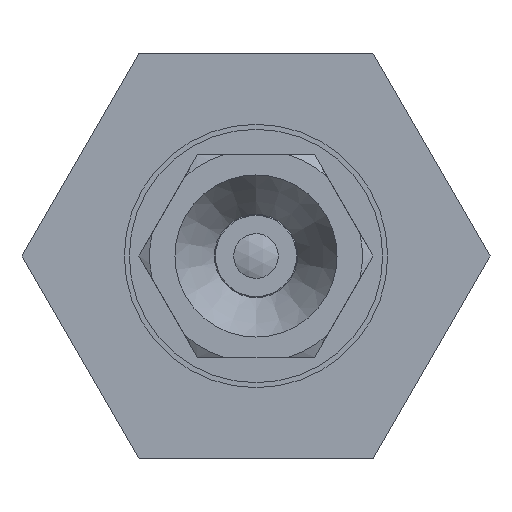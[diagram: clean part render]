
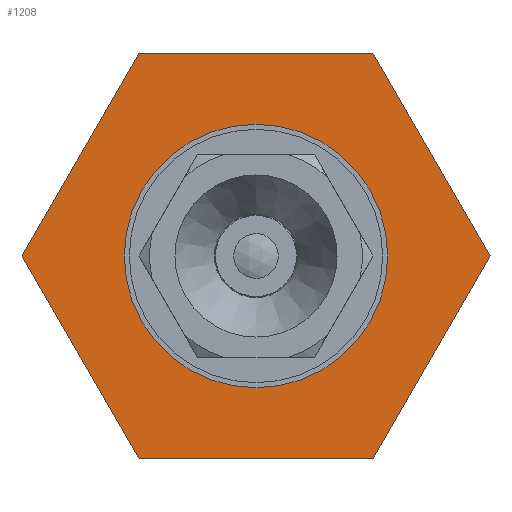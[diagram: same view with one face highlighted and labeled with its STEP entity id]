
A CAD part, front view. The second image highlights one B-rep face of the part: STEP entity #1208.
In plain terms, the highlighted planar face has unit normal (0, -1, 0) as drawn and (-1, 0, 0) by its records, which use the part's own axes.
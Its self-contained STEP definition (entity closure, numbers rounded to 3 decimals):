
#50=LINE('',#2638,#86);
#53=LINE('',#2644,#89);
#56=LINE('',#2650,#92);
#59=LINE('',#2656,#95);
#62=LINE('',#2662,#98);
#65=LINE('',#2667,#101);
#86=VECTOR('',#2195,1000.);
#89=VECTOR('',#2200,1000.);
#92=VECTOR('',#2205,1000.);
#95=VECTOR('',#2210,1000.);
#98=VECTOR('',#2215,1000.);
#101=VECTOR('',#2220,1000.);
#173=PLANE('',#1932);
#352=ORIENTED_EDGE('',*,*,#552,.F.);
#353=ORIENTED_EDGE('',*,*,#551,.F.);
#354=ORIENTED_EDGE('',*,*,#548,.F.);
#355=ORIENTED_EDGE('',*,*,#545,.F.);
#356=ORIENTED_EDGE('',*,*,#542,.F.);
#357=ORIENTED_EDGE('',*,*,#539,.F.);
#358=ORIENTED_EDGE('',*,*,#536,.F.);
#536=EDGE_CURVE('',#654,#655,#50,.T.);
#539=EDGE_CURVE('',#655,#657,#53,.T.);
#542=EDGE_CURVE('',#657,#659,#56,.T.);
#545=EDGE_CURVE('',#659,#661,#59,.T.);
#548=EDGE_CURVE('',#661,#663,#62,.T.);
#551=EDGE_CURVE('',#663,#654,#65,.T.);
#552=EDGE_CURVE('',#664,#664,#745,.T.);
#654=VERTEX_POINT('',#2637);
#655=VERTEX_POINT('',#2639);
#657=VERTEX_POINT('',#2645);
#659=VERTEX_POINT('',#2651);
#661=VERTEX_POINT('',#2657);
#663=VERTEX_POINT('',#2663);
#664=VERTEX_POINT('',#2670);
#745=CIRCLE('',#1933,6.5);
#856=EDGE_LOOP('',(#352));
#857=EDGE_LOOP('',(#353,#354,#355,#356,#357,#358));
#1029=FACE_BOUND('',#856,.T.);
#1030=FACE_BOUND('',#857,.T.);
#1208=ADVANCED_FACE('',(#1029,#1030),#173,.F.);
#1932=AXIS2_PLACEMENT_3D('',#2668,#2221,#2222);
#1933=AXIS2_PLACEMENT_3D('',#2669,#2223,#2224);
#2195=DIRECTION('',(0.,-0.5,0.866));
#2200=DIRECTION('',(0.,-1.,0.));
#2205=DIRECTION('',(0.,-0.5,-0.866));
#2210=DIRECTION('',(0.,0.5,-0.866));
#2215=DIRECTION('',(0.,1.,0.));
#2220=DIRECTION('',(0.,0.5,0.866));
#2221=DIRECTION('',(1.,0.,0.));
#2222=DIRECTION('',(0.,0.,-1.));
#2223=DIRECTION('',(-1.,0.,0.));
#2224=DIRECTION('',(0.,0.,1.));
#2637=CARTESIAN_POINT('',(8.,11.547,0.));
#2638=CARTESIAN_POINT('',(8.,11.547,0.));
#2639=CARTESIAN_POINT('',(8.,5.774,10.));
#2644=CARTESIAN_POINT('',(8.,5.774,10.));
#2645=CARTESIAN_POINT('',(8.,-5.774,10.));
#2650=CARTESIAN_POINT('',(8.,-5.774,10.));
#2651=CARTESIAN_POINT('',(8.,-11.547,0.));
#2656=CARTESIAN_POINT('',(8.,-11.547,0.));
#2657=CARTESIAN_POINT('',(8.,-5.774,-10.));
#2662=CARTESIAN_POINT('',(8.,-5.774,-10.));
#2663=CARTESIAN_POINT('',(8.,5.774,-10.));
#2667=CARTESIAN_POINT('',(8.,5.774,-10.));
#2668=CARTESIAN_POINT('',(8.,0.,12.5));
#2669=CARTESIAN_POINT('',(8.,0.,0.));
#2670=CARTESIAN_POINT('',(8.,0.,6.5));
